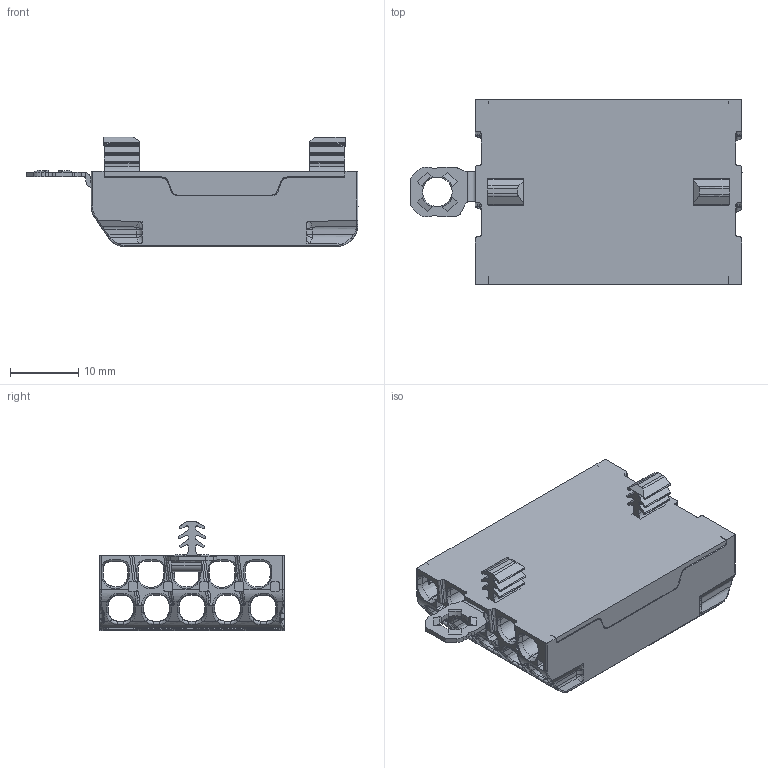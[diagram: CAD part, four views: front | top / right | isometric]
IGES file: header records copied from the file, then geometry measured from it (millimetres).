
Global section: file name: C:\CoreTechnologie\3D-In/022YF08Y03.igs; native system: CT CoreTechnologie 3D Evolution; preprocessor: 2006; date: 1210230.110656; units: millimetre
Bounding box: 48.5 x 26.95 x 16 mm (x, y, z)
Volume: 6280.8 mm3; surface area: 9775.3 mm2
Topology: 2 solids, 2 shells, 3138 faces, 8532 edges, 5415 vertices
Faces by surface type: plane 1868, revolution 1009, bspline 261
